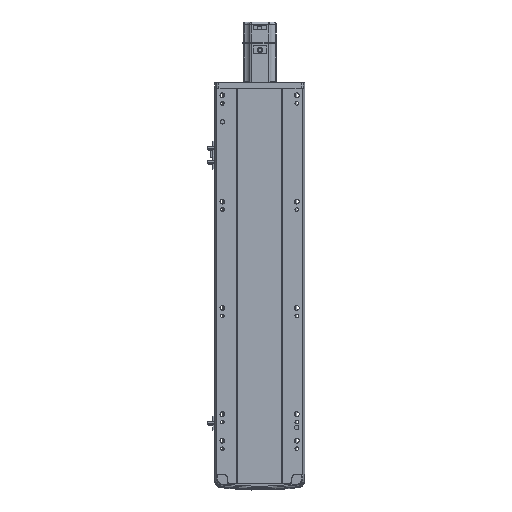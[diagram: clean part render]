
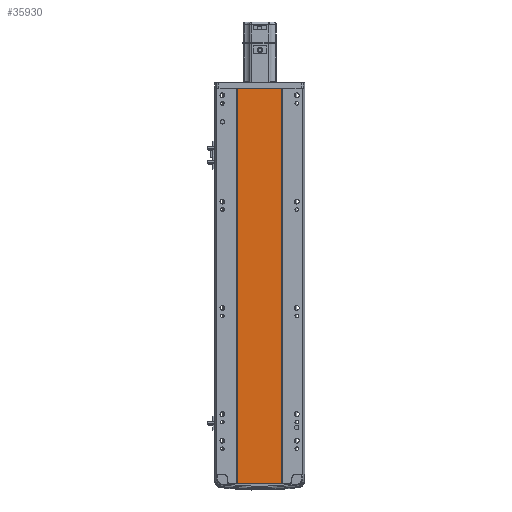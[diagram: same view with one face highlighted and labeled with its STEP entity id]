
A CAD part, front view. The second image highlights one B-rep face of the part: STEP entity #35930.
In plain terms, the highlighted planar face has unit normal (0, -1, 0).
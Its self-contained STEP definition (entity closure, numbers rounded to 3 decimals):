
#927 = DIRECTION ( 'NONE',  ( 1., 0., 0. ) ) ;
#1327 = VERTEX_POINT ( 'NONE', #6830 ) ;
#1427 = CARTESIAN_POINT ( 'NONE',  ( 0., 0.999, 743.5 ) ) ;
#3817 = VERTEX_POINT ( 'NONE', #23869 ) ;
#6830 = CARTESIAN_POINT ( 'NONE',  ( 41.793, 0.998, 0. ) ) ;
#7609 = ORIENTED_EDGE ( 'NONE', *, *, #14658, .F. ) ;
#9159 = DIRECTION ( 'NONE',  ( 1., 0., 0. ) ) ;
#10460 = FACE_OUTER_BOUND ( 'NONE', #23550, .T. ) ;
#11168 = ORIENTED_EDGE ( 'NONE', *, *, #24012, .T. ) ;
#12736 = DIRECTION ( 'NONE',  ( 0., 1., 0. ) ) ;
#13727 = VECTOR ( 'NONE', #15825, 1000. ) ;
#14658 = EDGE_CURVE ( 'NONE', #46338, #1327, #23824, .T. ) ;
#15775 = EDGE_CURVE ( 'NONE', #29850, #46338, #36198, .T. ) ;
#15825 = DIRECTION ( 'NONE',  ( 0., 0., -1. ) ) ;
#18505 = CARTESIAN_POINT ( 'NONE',  ( 41.793, 0.998, 743.5 ) ) ;
#19651 = CARTESIAN_POINT ( 'NONE',  ( 41.793, 0.998, 743.5 ) ) ;
#20292 = VECTOR ( 'NONE', #36339, 1000. ) ;
#21738 = CARTESIAN_POINT ( 'NONE',  ( -41.791, 1., 743.5 ) ) ;
#23314 = CARTESIAN_POINT ( 'NONE',  ( -41.791, 1., 743.5 ) ) ;
#23550 = EDGE_LOOP ( 'NONE', ( #34875, #7609, #47538, #11168 ) ) ;
#23564 = PLANE ( 'NONE',  #46458 ) ;
#23730 = DIRECTION ( 'NONE',  ( -1., 0., 0. ) ) ;
#23824 = LINE ( 'NONE', #19651, #13727 ) ;
#23869 = CARTESIAN_POINT ( 'NONE',  ( -41.791, 1., 0. ) ) ;
#24012 = EDGE_CURVE ( 'NONE', #29850, #3817, #40506, .T. ) ;
#29850 = VERTEX_POINT ( 'NONE', #23314 ) ;
#33641 = EDGE_CURVE ( 'NONE', #3817, #1327, #40403, .T. ) ;
#34875 = ORIENTED_EDGE ( 'NONE', *, *, #33641, .T. ) ;
#35930 = ADVANCED_FACE ( 'NONE', ( #10460 ), #23564, .F. ) ;
#36198 = LINE ( 'NONE', #39395, #43931 ) ;
#36339 = DIRECTION ( 'NONE',  ( 0., 0., -1. ) ) ;
#39395 = CARTESIAN_POINT ( 'NONE',  ( 0., 0.999, 743.5 ) ) ;
#40403 = LINE ( 'NONE', #46460, #43343 ) ;
#40506 = LINE ( 'NONE', #21738, #20292 ) ;
#43343 = VECTOR ( 'NONE', #927, 1000. ) ;
#43931 = VECTOR ( 'NONE', #9159, 1000. ) ;
#46338 = VERTEX_POINT ( 'NONE', #18505 ) ;
#46458 = AXIS2_PLACEMENT_3D ( 'NONE', #1427, #12736, #23730 ) ;
#46460 = CARTESIAN_POINT ( 'NONE',  ( 0., 0.999, 0. ) ) ;
#47538 = ORIENTED_EDGE ( 'NONE', *, *, #15775, .F. ) ;
